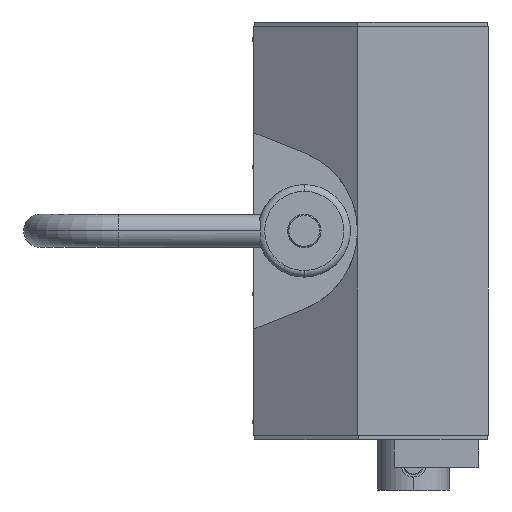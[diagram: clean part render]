
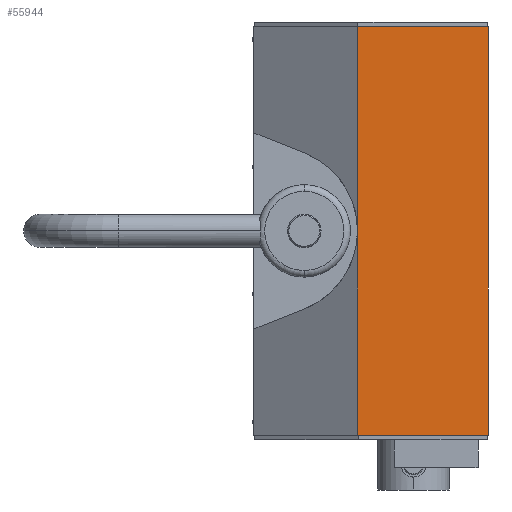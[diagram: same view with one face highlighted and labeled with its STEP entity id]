
A CAD part, left-side view. The second image highlights one B-rep face of the part: STEP entity #55944.
In plain terms, the highlighted planar face has unit normal (-1, 0, 0).
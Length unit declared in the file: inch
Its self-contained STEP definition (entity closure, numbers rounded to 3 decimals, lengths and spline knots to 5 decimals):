
#2328 = ORIENTED_EDGE ( 'NONE', *, *, #27800, .T. ) ;
#4847 = AXIS2_PLACEMENT_3D ( 'NONE', #22842, #83487, #63926 ) ;
#5092 = ORIENTED_EDGE ( 'NONE', *, *, #12583, .F. ) ;
#5120 = EDGE_CURVE ( 'NONE', #48435, #35756, #85765, .T. ) ;
#12583 = EDGE_CURVE ( 'NONE', #35756, #41432, #44343, .T. ) ;
#12876 = LINE ( 'NONE', #62667, #44883 ) ;
#17933 = CARTESIAN_POINT ( 'NONE',  ( -4.56693, 2.00475, 7.31299 ) ) ;
#17969 = EDGE_CURVE ( 'NONE', #48435, #81158, #88117, .T. ) ;
#18033 = DIRECTION ( 'NONE',  ( 0., 0., 1. ) ) ;
#18226 = CARTESIAN_POINT ( 'NONE',  ( -4.56693, -2.67717, 7.31299 ) ) ;
#18235 = CARTESIAN_POINT ( 'NONE',  ( -4.56693, -2.67717, -7.31299 ) ) ;
#21977 = VECTOR ( 'NONE', #18033, 39.37008 ) ;
#22842 = CARTESIAN_POINT ( 'NONE',  ( -4.56693, -2.67717, -7.42126 ) ) ;
#23494 = EDGE_CURVE ( 'NONE', #41432, #55294, #12876, .T. ) ;
#25624 = LINE ( 'NONE', #62037, #84224 ) ;
#26161 = ORIENTED_EDGE ( 'NONE', *, *, #23494, .F. ) ;
#27800 = EDGE_CURVE ( 'NONE', #81158, #55294, #25624, .T. ) ;
#29774 = ORIENTED_EDGE ( 'NONE', *, *, #5120, .F. ) ;
#32733 = EDGE_LOOP ( 'NONE', ( #2328, #26161, #5092, #29774, #56730 ) ) ;
#35756 = VERTEX_POINT ( 'NONE', #83005 ) ;
#36537 = PLANE ( 'NONE',  #4847 ) ;
#38176 = VECTOR ( 'NONE', #85710, 39.37008 ) ;
#39351 = CARTESIAN_POINT ( 'NONE',  ( -4.56693, 2.00475, -47.92494 ) ) ;
#40068 = VECTOR ( 'NONE', #79503, 39.37008 ) ;
#41432 = VERTEX_POINT ( 'NONE', #62763 ) ;
#42433 = DIRECTION ( 'NONE',  ( 0., 0., 1. ) ) ;
#44343 = LINE ( 'NONE', #39351, #21977 ) ;
#44883 = VECTOR ( 'NONE', #42433, 39.37008 ) ;
#46623 = FACE_OUTER_BOUND ( 'NONE', #32733, .T. ) ;
#48435 = VERTEX_POINT ( 'NONE', #49212 ) ;
#49212 = CARTESIAN_POINT ( 'NONE',  ( -4.56693, -2.67717, -7.31299 ) ) ;
#55294 = VERTEX_POINT ( 'NONE', #17933 ) ;
#55944 = ADVANCED_FACE ( 'NONE', ( #46623 ), #36537, .F. ) ;
#56730 = ORIENTED_EDGE ( 'NONE', *, *, #17969, .T. ) ;
#62037 = CARTESIAN_POINT ( 'NONE',  ( -4.56693, -2.67717, 7.31299 ) ) ;
#62667 = CARTESIAN_POINT ( 'NONE',  ( -4.56693, 2.00475, -47.92494 ) ) ;
#62763 = CARTESIAN_POINT ( 'NONE',  ( -4.56693, 2.00475, 0. ) ) ;
#63926 = DIRECTION ( 'NONE',  ( 0., 0., -1. ) ) ;
#66140 = CARTESIAN_POINT ( 'NONE',  ( -4.56693, -2.67717, -7.42126 ) ) ;
#79503 = DIRECTION ( 'NONE',  ( 0., 1., 0. ) ) ;
#81158 = VERTEX_POINT ( 'NONE', #18226 ) ;
#81923 = DIRECTION ( 'NONE',  ( 0., 1., 0. ) ) ;
#83005 = CARTESIAN_POINT ( 'NONE',  ( -4.56693, 2.00475, -7.31299 ) ) ;
#83487 = DIRECTION ( 'NONE',  ( 1., 0., 0. ) ) ;
#84224 = VECTOR ( 'NONE', #81923, 39.37008 ) ;
#85710 = DIRECTION ( 'NONE',  ( 0., 0., 1. ) ) ;
#85765 = LINE ( 'NONE', #18235, #40068 ) ;
#88117 = LINE ( 'NONE', #66140, #38176 ) ;
